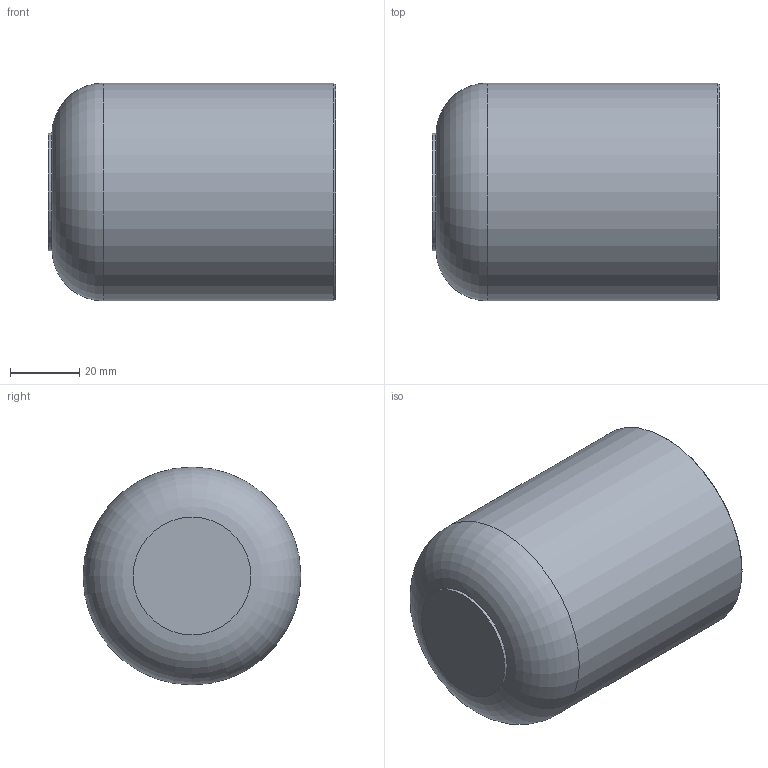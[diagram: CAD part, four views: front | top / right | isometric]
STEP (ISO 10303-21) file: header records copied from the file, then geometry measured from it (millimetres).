
FILE_DESCRIPTION(/* description */ ('Unknown'),/* implementation_level */ '2;1');
FILE_NAME(/* name */ 'CAP063C',/* time_stamp */ '2021-05-03T09:00:23+02:00',/* author */ ('Unknown'),/* organization */ ('Unknown'),/* preprocessor_version */ 'ST-DEVELOPER v16.7',/* originating_system */ 'Solid Edge',/* authorisation */ 'Unknown');
FILE_SCHEMA (('AUTOMOTIVE_DESIGN {1 0 10303 214 3 1 1}'));
Length unit declared in the file: millimetre
Products named in the file (1): CAP063C
Bounding box: 83 x 63 x 63 mm (x, y, z)
Volume: 97590.7 mm3; surface area: 32351.6 mm2
Topology: 1 solids, 1 shells, 9 faces, 15 edges, 9 vertices
Faces by surface type: plane 3, cylinder 3, torus 2, cone 1
Full cylindrical faces by diameter (mm): 34 x1, 51.4 x1, 63 x1
Entity records: 204 total; most frequent: DIRECTION 36, CARTESIAN_POINT 26, AXIS2_PLACEMENT_3D 18, ORIENTED_EDGE 16, EDGE_LOOP 16, FACE_BOUND 16, ADVANCED_FACE 9, EDGE_CURVE 8
